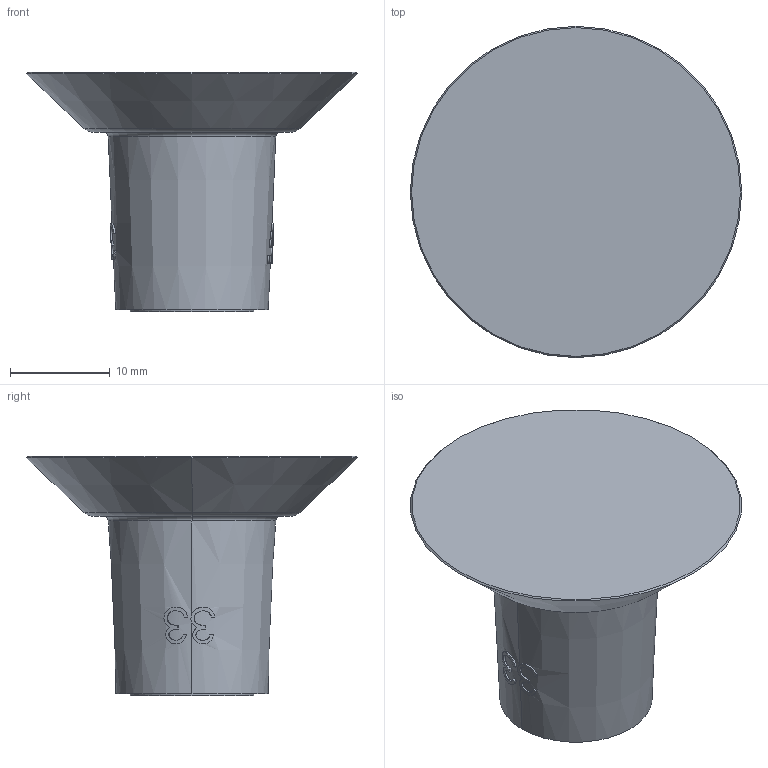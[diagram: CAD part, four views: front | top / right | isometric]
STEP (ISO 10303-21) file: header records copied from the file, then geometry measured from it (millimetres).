
FILE_DESCRIPTION (( 'STEP AP203' ), '1' );
FILE_NAME ('2322169.STEP', '2020-12-02T07:51:20', ( '' ), ( '' ), 'SwSTEP 2.0', 'SolidWorks 2020', '' );
FILE_SCHEMA (( 'CONFIG_CONTROL_DESIGN' ));
Length unit declared in the file: millimetre
Products named in the file (2): Copia di 2322169-AS01^2322169; 2322169
Assembly tree (1 placements, depth 2):
  2322169
    Copia di 2322169-AS01^2322169
Bounding box: 33.26 x 33.26 x 24 mm (x, y, z)
Volume: 7190.3 mm3; surface area: 2815.6 mm2
Topology: 7 solids, 7 shells, 96 faces, 226 edges, 148 vertices
Faces by surface type: bspline 58, cone 28, plane 4, torus 4, cylinder 2
Entity records: 8232 total; most frequent: CARTESIAN_POINT 6424, ORIENTED_EDGE 444, EDGE_CURVE 222, B_SPLINE_CURVE_WITH_KNOTS 186, VERTEX_POINT 146, DIRECTION 130, EDGE_LOOP 102, ADVANCED_FACE 90
